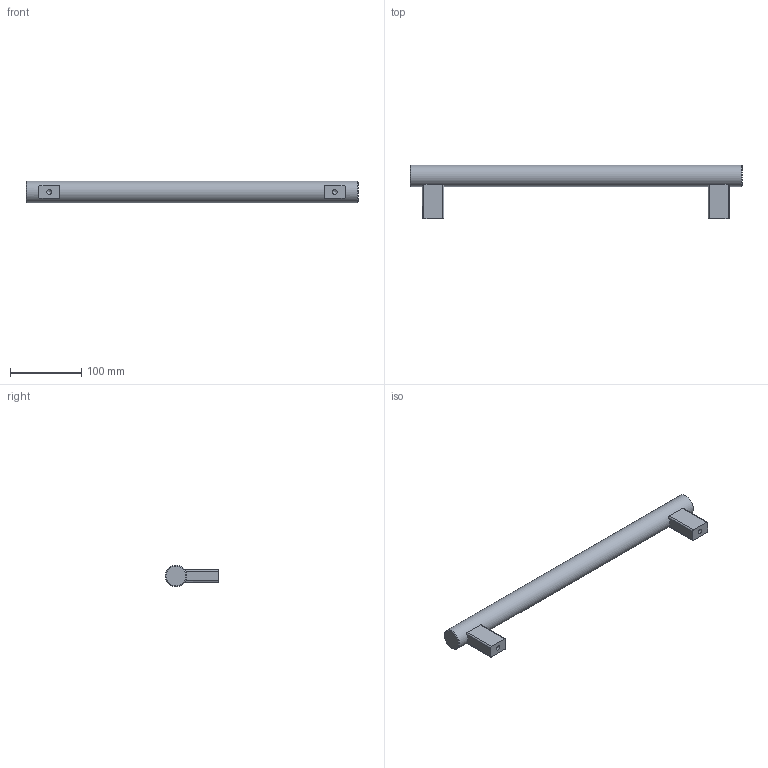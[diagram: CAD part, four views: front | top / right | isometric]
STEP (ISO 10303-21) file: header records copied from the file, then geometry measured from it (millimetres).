
FILE_DESCRIPTION( ( 'STEP AP203' ), '1' );
FILE_NAME( 'C:/Temp/Ganter_Step_05_03_2020/data/1_2/gn_666/Tubular handle GN 666-30-M8-400-ELG.stp', '2020-03-05T10:18:22', ( 'License CC BY-ND 4.0' ), ( 'CADENAS' ), ' ', 'PARTsolutions', ' ' );
FILE_SCHEMA( ( 'CONFIG_CONTROL_DESIGN' ) );
Length unit declared in the file: millimetre
Products named in the file (1): _Tubular handle GN 666-30-M8-400-ELG
Bounding box: 465 x 75 x 30 mm (x, y, z)
Volume: 376608.6 mm3; surface area: 54549.2 mm2
Topology: 1 solids, 1 shells, 27 faces, 65 edges, 42 vertices
Faces by surface type: plane 12, cylinder 11, cone 4
Full cylindrical faces by diameter (mm): 6.647 x2, 30 x1
Entity records: 882 total; most frequent: CARTESIAN_POINT 238, DIRECTION 124, ORIENTED_EDGE 112, EDGE_CURVE 56, AXIS2_PLACEMENT_3D 48, VERTEX_POINT 42, EDGE_LOOP 36, FACE_OUTER_BOUND 30
